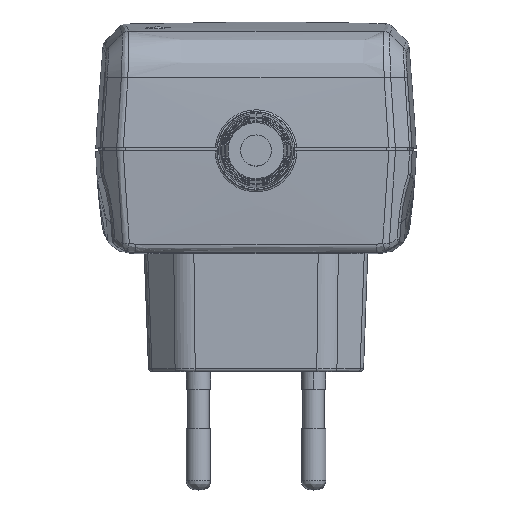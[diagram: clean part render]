
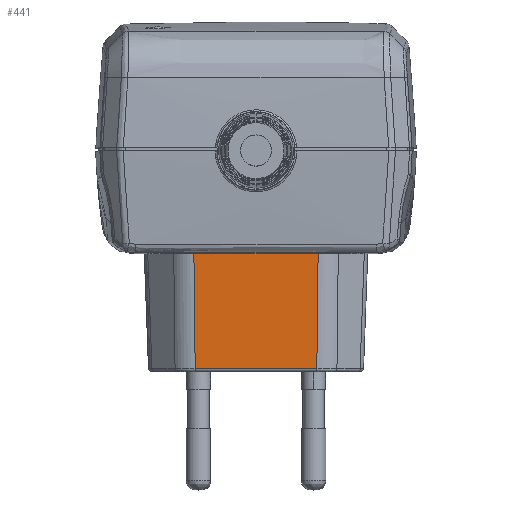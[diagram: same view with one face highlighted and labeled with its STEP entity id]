
A CAD part, top view. The second image highlights one B-rep face of the part: STEP entity #441.
In plain terms, the highlighted free-form (B-spline) face has degree [1, 1] with [2, 2] control points.
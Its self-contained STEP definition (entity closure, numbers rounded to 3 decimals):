
#441=ADVANCED_FACE('',(#879),#14877,.T.);
#879=FACE_OUTER_BOUND('',#1342,.T.);
#1342=EDGE_LOOP('',(#3218,#3219,#3220,#3221));
#3218=ORIENTED_EDGE('',*,*,#10491,.T.);
#3219=ORIENTED_EDGE('',*,*,#10492,.T.);
#3220=ORIENTED_EDGE('',*,*,#10493,.T.);
#3221=ORIENTED_EDGE('',*,*,#10339,.F.);
#5456=PCURVE('',#14828,#7683);
#5739=PCURVE('',#14877,#7966);
#5740=PCURVE('',#14877,#7967);
#5741=PCURVE('',#14877,#7968);
#5742=PCURVE('',#14877,#7969);
#5773=PCURVE('',#14562,#8000);
#5775=PCURVE('',#14563,#8002);
#5792=PCURVE('',#14566,#8019);
#7683=DEFINITIONAL_REPRESENTATION('',(#12760),#93811);
#7966=DEFINITIONAL_REPRESENTATION('',(#13176),#93811);
#7967=DEFINITIONAL_REPRESENTATION('',(#13178),#93811);
#7968=DEFINITIONAL_REPRESENTATION('',(#13180),#93811);
#7969=DEFINITIONAL_REPRESENTATION('',(#13181),#93811);
#8000=DEFINITIONAL_REPRESENTATION('',(#13230),#93811);
#8002=DEFINITIONAL_REPRESENTATION('',(#13232),#93811);
#8019=DEFINITIONAL_REPRESENTATION('',(#13254),#93811);
#9203=SURFACE_CURVE('',#12759,(#5456,#5742),.PCURVE_S1.);
#9355=SURFACE_CURVE('',#13175,(#5739,#5773),.PCURVE_S1.);
#9356=SURFACE_CURVE('',#13177,(#5740,#5792),.PCURVE_S1.);
#9357=SURFACE_CURVE('',#13179,(#5741,#5775),.PCURVE_S1.);
#10339=EDGE_CURVE('',#14286,#14297,#9203,.T.);
#10491=EDGE_CURVE('',#14286,#14380,#9355,.T.);
#10492=EDGE_CURVE('',#14380,#14381,#9356,.T.);
#10493=EDGE_CURVE('',#14381,#14297,#9357,.T.);
#12759=B_SPLINE_CURVE_WITH_KNOTS('',1,(#75250,#75251),.UNSPECIFIED.,.F.,
 .F.,(2,2),(-19.972,0.),.UNSPECIFIED.);
#12760=B_SPLINE_CURVE_WITH_KNOTS('',1,(#75252,#75253),.UNSPECIFIED.,.F.,
 .F.,(2,2),(-19.972,0.),.UNSPECIFIED.);
#13175=B_SPLINE_CURVE_WITH_KNOTS('',1,(#89380,#89381),.UNSPECIFIED.,.F.,
 .F.,(2,2),(-18.542,-0.021),.UNSPECIFIED.);
#13176=B_SPLINE_CURVE_WITH_KNOTS('',1,(#89382,#89383),.UNSPECIFIED.,.F.,
 .F.,(2,2),(-18.542,-0.021),.UNSPECIFIED.);
#13177=B_SPLINE_CURVE_WITH_KNOTS('',1,(#89384,#89385),.UNSPECIFIED.,.F.,
 .F.,(2,2),(-21.676,-2.116),.UNSPECIFIED.);
#13178=B_SPLINE_CURVE_WITH_KNOTS('',1,(#89386,#89387),.UNSPECIFIED.,.F.,
 .F.,(2,2),(-21.676,-2.116),.UNSPECIFIED.);
#13179=B_SPLINE_CURVE_WITH_KNOTS('',1,(#89388,#89389),.UNSPECIFIED.,.F.,
 .F.,(2,2),(-0.243,18.277),.UNSPECIFIED.);
#13180=B_SPLINE_CURVE_WITH_KNOTS('',1,(#89390,#89391),.UNSPECIFIED.,.F.,
 .F.,(2,2),(-0.243,18.277),.UNSPECIFIED.);
#13181=B_SPLINE_CURVE_WITH_KNOTS('',1,(#89392,#89393),.UNSPECIFIED.,.F.,
 .F.,(2,2),(-19.972,0.),.UNSPECIFIED.);
#13230=B_SPLINE_CURVE_WITH_KNOTS('',1,(#89512,#89513),.UNSPECIFIED.,.F.,
 .F.,(2,2),(-18.542,-0.021),.UNSPECIFIED.);
#13232=B_SPLINE_CURVE_WITH_KNOTS('',1,(#89518,#89519),.UNSPECIFIED.,.F.,
 .F.,(2,2),(-0.243,18.277),.UNSPECIFIED.);
#13254=B_SPLINE_CURVE_WITH_KNOTS('',1,(#89736,#89737),.UNSPECIFIED.,.F.,
 .F.,(2,2),(-21.676,-2.116),.UNSPECIFIED.);
#14286=VERTEX_POINT('',#74553);
#14297=VERTEX_POINT('',#74564);
#14380=VERTEX_POINT('',#74647);
#14381=VERTEX_POINT('',#74648);
#14562=(
BOUNDED_SURFACE()
B_SPLINE_SURFACE(2,1,((#72438,#72439),(#72440,#72441),(#72442,#72443)),
 .UNSPECIFIED.,.F.,.F.,.F.)
B_SPLINE_SURFACE_WITH_KNOTS((3,3),(2,2),(5.44,6.323),
(-19.468,0.915),.UNSPECIFIED.)
GEOMETRIC_REPRESENTATION_ITEM()
RATIONAL_B_SPLINE_SURFACE(((1.,1.),(0.904,0.904),
(1.,1.)))
REPRESENTATION_ITEM('')
SURFACE()
);
#14563=(
BOUNDED_SURFACE()
B_SPLINE_SURFACE(2,1,((#72444,#72445),(#72446,#72447),(#72448,#72449)),
 .UNSPECIFIED.,.F.,.F.,.F.)
B_SPLINE_SURFACE_WITH_KNOTS((3,3),(2,2),(-0.04,0.843),
(-19.204,1.18),.UNSPECIFIED.)
GEOMETRIC_REPRESENTATION_ITEM()
RATIONAL_B_SPLINE_SURFACE(((1.,1.),(0.904,0.904),
(1.,1.)))
REPRESENTATION_ITEM('')
SURFACE()
);
#14566=(
BOUNDED_SURFACE()
B_SPLINE_SURFACE(2,1,((#72630,#72631),(#72632,#72633),(#72634,#72635),(#72636,
#72637),(#72638,#72639)),.UNSPECIFIED.,.F.,.F.,.F.)
B_SPLINE_SURFACE_WITH_KNOTS((3,2,3),(2,2),(3.091,3.94,
4.79),(-22.654,-1.138),.UNSPECIFIED.)
GEOMETRIC_REPRESENTATION_ITEM()
RATIONAL_B_SPLINE_SURFACE(((1.,1.),(0.911,0.911),
(1.,1.),(0.911,0.911),(1.,1.)))
REPRESENTATION_ITEM('')
SURFACE()
);
#14828=B_SPLINE_SURFACE_WITH_KNOTS('',1,1,((#67194,#67195),(#67196,#67197)),
 .UNSPECIFIED.,.F.,.F.,.F.,(2,2),(2,2),(-22.015,22.015),
(-52.441,52.441),.UNSPECIFIED.);
#14877=B_SPLINE_SURFACE_WITH_KNOTS('',1,1,((#72394,#72395),(#72396,#72397)),
 .UNSPECIFIED.,.F.,.F.,.F.,(2,2),(2,2),(-0.926,19.445),
(0.911,22.881),.UNSPECIFIED.);
#67194=CARTESIAN_POINT('',(-60.792,18.09,-52.441));
#67195=CARTESIAN_POINT('',(-60.792,18.09,52.441));
#67196=CARTESIAN_POINT('',(-16.762,18.09,-52.441));
#67197=CARTESIAN_POINT('',(-16.762,18.09,52.441));
#72394=CARTESIAN_POINT('',(-49.762,19.016,-20.876));
#72395=CARTESIAN_POINT('',(-27.793,19.016,-20.876));
#72396=CARTESIAN_POINT('',(-49.762,-1.348,-21.409));
#72397=CARTESIAN_POINT('',(-27.793,-1.348,-21.409));
#72438=CARTESIAN_POINT('',(-51.907,-1.347,-22.916));
#72439=CARTESIAN_POINT('',(-52.133,19.029,-22.382));
#72440=CARTESIAN_POINT('',(-50.492,-1.373,-21.328));
#72441=CARTESIAN_POINT('',(-50.718,19.003,-20.794));
#72442=CARTESIAN_POINT('',(-48.367,-1.347,-21.413));
#72443=CARTESIAN_POINT('',(-48.593,19.029,-20.879));
#72444=CARTESIAN_POINT('',(-29.188,-1.347,-21.413));
#72445=CARTESIAN_POINT('',(-28.961,19.029,-20.879));
#72446=CARTESIAN_POINT('',(-27.063,-1.373,-21.328));
#72447=CARTESIAN_POINT('',(-26.836,19.003,-20.794));
#72448=CARTESIAN_POINT('',(-25.648,-1.347,-22.916));
#72449=CARTESIAN_POINT('',(-25.421,19.029,-22.382));
#72630=CARTESIAN_POINT('',(-49.536,-0.384,-21.385));
#72631=CARTESIAN_POINT('',(-28.019,-0.384,-21.385));
#72632=CARTESIAN_POINT('',(-49.536,-0.61,-21.374));
#72633=CARTESIAN_POINT('',(-28.019,-0.61,-21.374));
#72634=CARTESIAN_POINT('',(-49.536,-0.768,-21.536));
#72635=CARTESIAN_POINT('',(-28.019,-0.768,-21.536));
#72636=CARTESIAN_POINT('',(-49.536,-0.926,-21.698));
#72637=CARTESIAN_POINT('',(-28.019,-0.926,-21.698));
#72638=CARTESIAN_POINT('',(-49.536,-0.908,-21.923));
#72639=CARTESIAN_POINT('',(-28.019,-0.908,-21.923));
#74553=CARTESIAN_POINT('',(-48.764,18.09,-20.9));
#74564=CARTESIAN_POINT('',(-28.791,18.09,-20.9));
#74647=CARTESIAN_POINT('',(-48.558,-0.423,-21.385));
#74648=CARTESIAN_POINT('',(-28.997,-0.423,-21.385));
#75250=CARTESIAN_POINT('',(-48.764,18.09,-20.9));
#75251=CARTESIAN_POINT('',(-28.791,18.09,-20.9));
#75252=CARTESIAN_POINT('',(-9.986,-20.9));
#75253=CARTESIAN_POINT('',(9.986,-20.9));
#89380=CARTESIAN_POINT('',(-48.764,18.09,-20.9));
#89381=CARTESIAN_POINT('',(-48.558,-0.423,-21.385));
#89382=CARTESIAN_POINT('',(0.,1.91));
#89383=CARTESIAN_POINT('',(18.519,2.116));
#89384=CARTESIAN_POINT('',(-48.558,-0.423,-21.385));
#89385=CARTESIAN_POINT('',(-28.997,-0.423,-21.385));
#89386=CARTESIAN_POINT('',(18.519,2.116));
#89387=CARTESIAN_POINT('',(18.519,21.676));
#89388=CARTESIAN_POINT('',(-28.997,-0.423,-21.385));
#89389=CARTESIAN_POINT('',(-28.791,18.09,-20.9));
#89390=CARTESIAN_POINT('',(18.519,21.676));
#89391=CARTESIAN_POINT('',(0.,21.882));
#89392=CARTESIAN_POINT('',(0.,1.91));
#89393=CARTESIAN_POINT('',(0.,21.882));
#89512=CARTESIAN_POINT('',(6.282,-0.021));
#89513=CARTESIAN_POINT('',(6.282,-18.542));
#89518=CARTESIAN_POINT('',(0.001,-18.277));
#89519=CARTESIAN_POINT('',(0.001,0.243));
#89736=CARTESIAN_POINT('',(3.17,-21.676));
#89737=CARTESIAN_POINT('',(3.17,-2.116));
#93811=(
GEOMETRIC_REPRESENTATION_CONTEXT(2)
PARAMETRIC_REPRESENTATION_CONTEXT()
REPRESENTATION_CONTEXT('pspace','')
);
